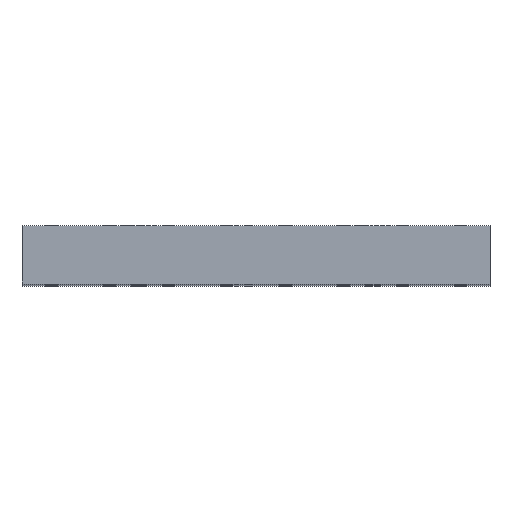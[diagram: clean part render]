
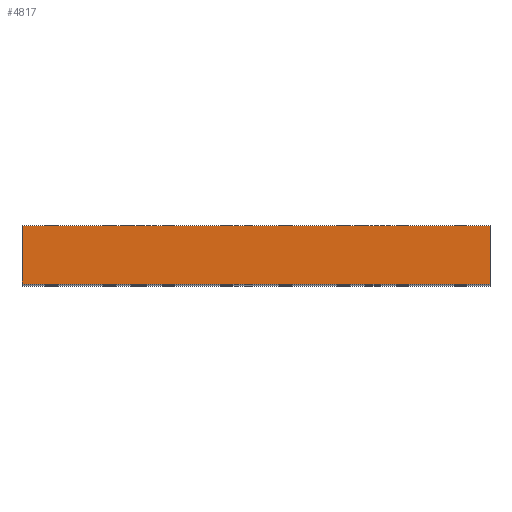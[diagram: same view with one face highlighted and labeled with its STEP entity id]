
A CAD part, top view. The second image highlights one B-rep face of the part: STEP entity #4817.
In plain terms, the highlighted planar face has unit normal (0, 0, 1).
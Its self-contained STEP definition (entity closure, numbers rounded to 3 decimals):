
#233=LINE('',#8174,#449);
#234=LINE('',#8177,#450);
#235=LINE('',#8179,#451);
#236=LINE('',#8180,#452);
#449=VECTOR('',#6916,10.);
#450=VECTOR('',#6919,10.);
#451=VECTOR('',#6920,10.);
#452=VECTOR('',#6921,10.);
#1275=FACE_OUTER_BOUND('',#1497,.T.);
#1497=EDGE_LOOP('',(#4178,#4179,#4180,#4181));
#2715=VERTEX_POINT('',#8168);
#2717=VERTEX_POINT('',#8172);
#2718=VERTEX_POINT('',#8176);
#2719=VERTEX_POINT('',#8178);
#3337=EDGE_CURVE('',#2715,#2717,#233,.T.);
#3338=EDGE_CURVE('',#2715,#2718,#234,.T.);
#3339=EDGE_CURVE('',#2719,#2717,#235,.T.);
#3340=EDGE_CURVE('',#2718,#2719,#236,.T.);
#4178=ORIENTED_EDGE('',*,*,#3338,.F.);
#4179=ORIENTED_EDGE('',*,*,#3337,.T.);
#4180=ORIENTED_EDGE('',*,*,#3339,.F.);
#4181=ORIENTED_EDGE('',*,*,#3340,.F.);
#4601=PLANE('',#5464);
#4817=ADVANCED_FACE('',(#1275),#4601,.T.);
#5464=AXIS2_PLACEMENT_3D('',#8175,#6917,#6918);
#6916=DIRECTION('',(0.,-1.,0.));
#6917=DIRECTION('center_axis',(0.,0.,1.));
#6918=DIRECTION('ref_axis',(-1.,0.,0.));
#6919=DIRECTION('',(1.,0.,0.));
#6920=DIRECTION('',(-1.,0.,0.));
#6921=DIRECTION('',(0.,-1.,0.));
#8168=CARTESIAN_POINT('',(-100.,0.,300.));
#8172=CARTESIAN_POINT('',(-100.,-25.,300.));
#8174=CARTESIAN_POINT('',(-100.,0.,300.));
#8175=CARTESIAN_POINT('Origin',(100.,0.,300.));
#8176=CARTESIAN_POINT('',(100.,0.,300.));
#8177=CARTESIAN_POINT('',(-100.,0.,300.));
#8178=CARTESIAN_POINT('',(100.,-25.,300.));
#8179=CARTESIAN_POINT('',(-100.,-25.,300.));
#8180=CARTESIAN_POINT('',(100.,0.,300.));
